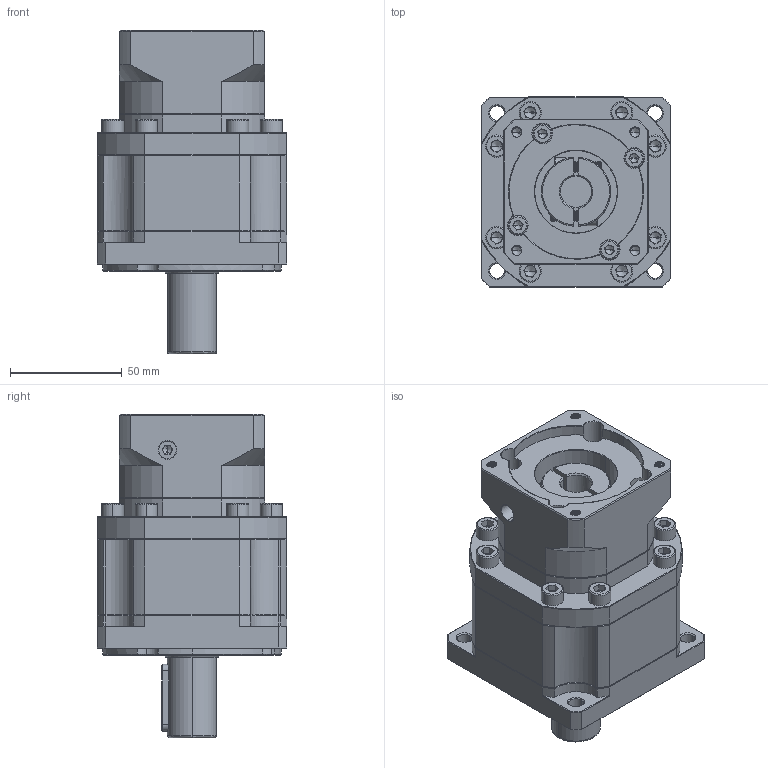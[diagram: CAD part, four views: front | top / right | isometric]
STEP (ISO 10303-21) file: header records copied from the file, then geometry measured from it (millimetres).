
FILE_DESCRIPTION (( 'STEP AP214' ), '1' );
FILE_NAME ('ZB90-D22-L2-14-60-75-M5.STEP', '2022-05-02T15:26:45', ( '' ), ( 'Microsoft' ), 'SwSTEP 2.0', 'SolidWorks 2016', '' );
FILE_SCHEMA (( 'AUTOMOTIVE_DESIGN' ));
Length unit declared in the file: millimetre
Products named in the file (1): ZB90-D22-L2-14-60-75-M5
Bounding box: 85 x 85 x 145 mm (x, y, z)
Volume: 540997.5 mm3; surface area: 76421.9 mm2
Topology: 6 solids, 6 shells, 2090 faces, 5485 edges, 3482 vertices
Faces by surface type: plane 1005, cylinder 409, bspline 328, cone 326, torus 22
Entity records: 110503 total; most frequent: CARTESIAN_POINT 38679, ORIENTED_EDGE 10878, DIRECTION 9007, EDGE_CURVE 5439, VERTEX_POINT 3482, LINE 3329, VECTOR 3329, AXIS2_PLACEMENT_3D 2839
